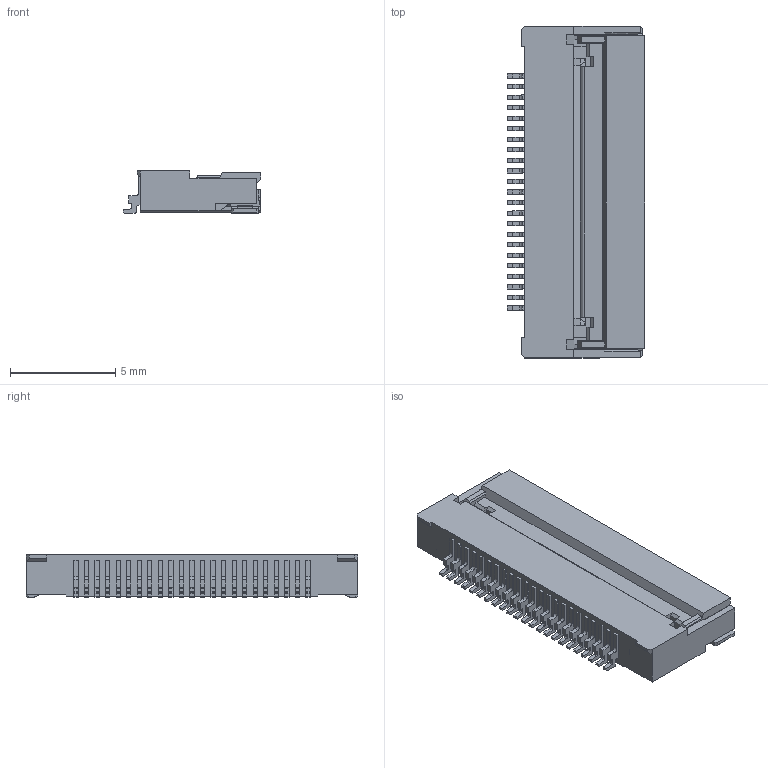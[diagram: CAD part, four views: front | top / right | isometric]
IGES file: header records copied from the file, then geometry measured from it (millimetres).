
Start section: SolidWorks IGES file using analytic representation for surfaces
Bounding box: 6.5 x 15.74 x 2 mm (x, y, z)
Surface area: 454 mm2 (no closed solid volume)
Topology: 0 solids, 0 shells, 654 faces, 4339 edges, 4339 vertices
Faces by surface type: bspline 490, revolution 164
